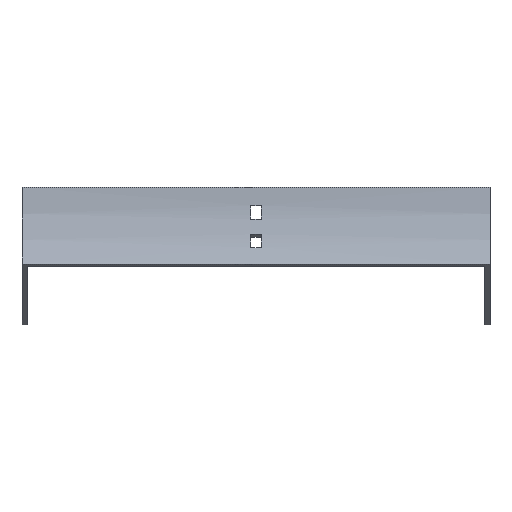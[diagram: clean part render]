
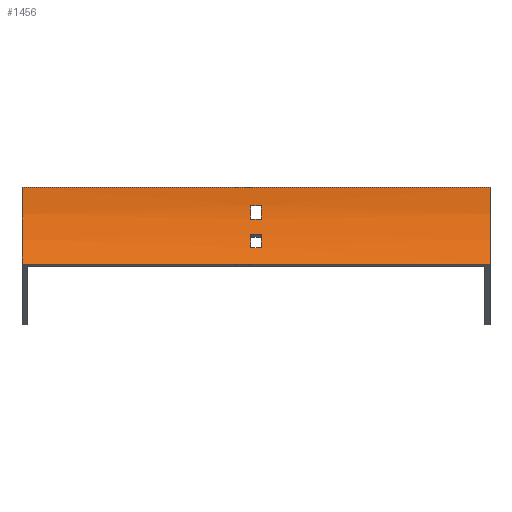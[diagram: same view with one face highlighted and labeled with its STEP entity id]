
A CAD part, front view. The second image highlights one B-rep face of the part: STEP entity #1456.
In plain terms, the highlighted cylindrical face has radius 100 mm (diameter 200 mm), a partial arc.
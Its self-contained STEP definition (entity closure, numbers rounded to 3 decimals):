
#23 = CARTESIAN_POINT ( 'NONE',  ( -152., 0., 0. ) ) ;
#59 = CARTESIAN_POINT ( 'NONE',  ( 3.25, -0.723, -12. ) ) ;
#76 = CARTESIAN_POINT ( 'NONE',  ( 152., -13.397, -50. ) ) ;
#84 = DIRECTION ( 'NONE',  ( 0., 0., 1. ) ) ;
#91 = DIRECTION ( 'NONE',  ( -1., 0., 0. ) ) ;
#105 = DIRECTION ( 'NONE',  ( 0., 0., 1. ) ) ;
#115 = CARTESIAN_POINT ( 'NONE',  ( 3.25, -4.829, -30.699 ) ) ;
#140 = DIRECTION ( 'NONE',  ( 0., 0., 1. ) ) ;
#153 = CARTESIAN_POINT ( 'NONE',  ( -3.25, -0.723, -12. ) ) ;
#176 = DIRECTION ( 'NONE',  ( -1., 0., 0. ) ) ;
#179 = ORIENTED_EDGE ( 'NONE', *, *, #1412, .T. ) ;
#202 = CARTESIAN_POINT ( 'NONE',  ( 152., -2.23, -21. ) ) ;
#207 = CARTESIAN_POINT ( 'NONE',  ( -3.25, -100., 0. ) ) ;
#209 = LINE ( 'NONE', #606, #953 ) ;
#214 = DIRECTION ( 'NONE',  ( 0., 0., -1. ) ) ;
#219 = EDGE_CURVE ( 'NONE', #969, #424, #1442, .T. ) ;
#244 = CARTESIAN_POINT ( 'NONE',  ( 152., -100., 0. ) ) ;
#256 = DIRECTION ( 'NONE',  ( -1., 0., 0. ) ) ;
#266 = VECTOR ( 'NONE', #1203, 1000. ) ;
#280 = DIRECTION ( 'NONE',  ( 0., 0., -1. ) ) ;
#282 = CARTESIAN_POINT ( 'NONE',  ( 152., -13.397, -50. ) ) ;
#324 = CARTESIAN_POINT ( 'NONE',  ( 152., -100., 0. ) ) ;
#335 = ORIENTED_EDGE ( 'NONE', *, *, #980, .F. ) ;
#347 = ORIENTED_EDGE ( 'NONE', *, *, #723, .F. ) ;
#364 = FACE_BOUND ( 'NONE', #610, .T. ) ;
#374 = CARTESIAN_POINT ( 'NONE',  ( -3.25, -4.829, -30.699 ) ) ;
#381 = DIRECTION ( 'NONE',  ( 1., 0., 0. ) ) ;
#409 = EDGE_LOOP ( 'NONE', ( #1364, #827, #490, #179 ) ) ;
#421 = DIRECTION ( 'NONE',  ( -1., 0., 0. ) ) ;
#424 = VERTEX_POINT ( 'NONE', #857 ) ;
#473 = DIRECTION ( 'NONE',  ( 1., 0., 0. ) ) ;
#486 = EDGE_CURVE ( 'NONE', #556, #785, #677, .T. ) ;
#490 = ORIENTED_EDGE ( 'NONE', *, *, #1670, .F. ) ;
#507 = EDGE_LOOP ( 'NONE', ( #1100, #1191, #335, #347 ) ) ;
#515 = CARTESIAN_POINT ( 'NONE',  ( 152., -0.723, -12. ) ) ;
#517 = VECTOR ( 'NONE', #612, 1000. ) ;
#527 = CARTESIAN_POINT ( 'NONE',  ( -3.25, -100., 0. ) ) ;
#533 = DIRECTION ( 'NONE',  ( -1., 0., 0. ) ) ;
#543 = AXIS2_PLACEMENT_3D ( 'NONE', #324, #421, #1081 ) ;
#556 = VERTEX_POINT ( 'NONE', #153 ) ;
#595 = CARTESIAN_POINT ( 'NONE',  ( 3.25, -2.23, -21. ) ) ;
#605 = CIRCLE ( 'NONE', #1010, 100. ) ;
#606 = CARTESIAN_POINT ( 'NONE',  ( 152., -8.023, -39.246 ) ) ;
#610 = EDGE_LOOP ( 'NONE', ( #1581, #885, #1133, #1091 ) ) ;
#612 = DIRECTION ( 'NONE',  ( -1., 0., 0. ) ) ;
#624 = EDGE_CURVE ( 'NONE', #1664, #1164, #684, .T. ) ;
#627 = VECTOR ( 'NONE', #176, 1000. ) ;
#648 = AXIS2_PLACEMENT_3D ( 'NONE', #1535, #879, #84 ) ;
#649 = AXIS2_PLACEMENT_3D ( 'NONE', #527, #381, #140 ) ;
#677 = LINE ( 'NONE', #515, #979 ) ;
#678 = CIRCLE ( 'NONE', #649, 100. ) ;
#684 = LINE ( 'NONE', #202, #266 ) ;
#694 = EDGE_CURVE ( 'NONE', #1175, #424, #605, .T. ) ;
#707 = AXIS2_PLACEMENT_3D ( 'NONE', #244, #91, #105 ) ;
#723 = EDGE_CURVE ( 'NONE', #1476, #1249, #209, .T. ) ;
#743 = DIRECTION ( 'NONE',  ( 0., 0., 1. ) ) ;
#785 = VERTEX_POINT ( 'NONE', #59 ) ;
#806 = CIRCLE ( 'NONE', #1026, 100. ) ;
#827 = ORIENTED_EDGE ( 'NONE', *, *, #219, .F. ) ;
#848 = VERTEX_POINT ( 'NONE', #1066 ) ;
#857 = CARTESIAN_POINT ( 'NONE',  ( -152., -13.397, -50. ) ) ;
#879 = DIRECTION ( 'NONE',  ( 1., 0., 0. ) ) ;
#885 = ORIENTED_EDGE ( 'NONE', *, *, #1214, .T. ) ;
#888 = CARTESIAN_POINT ( 'NONE',  ( 152., 0., 0. ) ) ;
#896 = FACE_BOUND ( 'NONE', #507, .T. ) ;
#909 = CARTESIAN_POINT ( 'NONE',  ( 3.25, -100., 0. ) ) ;
#953 = VECTOR ( 'NONE', #473, 1000. ) ;
#969 = VERTEX_POINT ( 'NONE', #76 ) ;
#979 = VECTOR ( 'NONE', #1310, 1000. ) ;
#980 = EDGE_CURVE ( 'NONE', #1249, #1445, #1267, .T. ) ;
#1010 = AXIS2_PLACEMENT_3D ( 'NONE', #1394, #1116, #743 ) ;
#1026 = AXIS2_PLACEMENT_3D ( 'NONE', #207, #1514, #214 ) ;
#1065 = CARTESIAN_POINT ( 'NONE',  ( 152., -4.829, -30.699 ) ) ;
#1066 = CARTESIAN_POINT ( 'NONE',  ( 152., 0., 0. ) ) ;
#1081 = DIRECTION ( 'NONE',  ( 0., 0., 1. ) ) ;
#1091 = ORIENTED_EDGE ( 'NONE', *, *, #1120, .T. ) ;
#1100 = ORIENTED_EDGE ( 'NONE', *, *, #1368, .F. ) ;
#1116 = DIRECTION ( 'NONE',  ( -1., 0., 0. ) ) ;
#1120 = EDGE_CURVE ( 'NONE', #785, #1664, #1380, .T. ) ;
#1133 = ORIENTED_EDGE ( 'NONE', *, *, #486, .T. ) ;
#1159 = CIRCLE ( 'NONE', #543, 100. ) ;
#1164 = VERTEX_POINT ( 'NONE', #1593 ) ;
#1172 = VECTOR ( 'NONE', #256, 1000. ) ;
#1175 = VERTEX_POINT ( 'NONE', #23 ) ;
#1191 = ORIENTED_EDGE ( 'NONE', *, *, #1483, .F. ) ;
#1196 = LINE ( 'NONE', #1065, #627 ) ;
#1203 = DIRECTION ( 'NONE',  ( -1., 0., 0. ) ) ;
#1214 = EDGE_CURVE ( 'NONE', #1164, #556, #678, .T. ) ;
#1249 = VERTEX_POINT ( 'NONE', #1610 ) ;
#1267 = CIRCLE ( 'NONE', #648, 100. ) ;
#1310 = DIRECTION ( 'NONE',  ( 1., 0., 0. ) ) ;
#1364 = ORIENTED_EDGE ( 'NONE', *, *, #694, .T. ) ;
#1368 = EDGE_CURVE ( 'NONE', #1518, #1476, #806, .T. ) ;
#1380 = CIRCLE ( 'NONE', #1502, 100. ) ;
#1394 = CARTESIAN_POINT ( 'NONE',  ( -152., -100., 0. ) ) ;
#1412 = EDGE_CURVE ( 'NONE', #848, #1175, #1653, .T. ) ;
#1420 = CYLINDRICAL_SURFACE ( 'NONE', #707, 100. ) ;
#1442 = LINE ( 'NONE', #282, #1172 ) ;
#1445 = VERTEX_POINT ( 'NONE', #115 ) ;
#1451 = CARTESIAN_POINT ( 'NONE',  ( -3.25, -8.023, -39.246 ) ) ;
#1456 = ADVANCED_FACE ( 'NONE', ( #1555, #364, #896 ), #1420, .F. ) ;
#1476 = VERTEX_POINT ( 'NONE', #1451 ) ;
#1483 = EDGE_CURVE ( 'NONE', #1445, #1518, #1196, .T. ) ;
#1502 = AXIS2_PLACEMENT_3D ( 'NONE', #909, #533, #280 ) ;
#1514 = DIRECTION ( 'NONE',  ( -1., 0., 0. ) ) ;
#1518 = VERTEX_POINT ( 'NONE', #374 ) ;
#1535 = CARTESIAN_POINT ( 'NONE',  ( 3.25, -100., 0. ) ) ;
#1555 = FACE_OUTER_BOUND ( 'NONE', #409, .T. ) ;
#1581 = ORIENTED_EDGE ( 'NONE', *, *, #624, .T. ) ;
#1593 = CARTESIAN_POINT ( 'NONE',  ( -3.25, -2.23, -21. ) ) ;
#1610 = CARTESIAN_POINT ( 'NONE',  ( 3.25, -8.023, -39.246 ) ) ;
#1653 = LINE ( 'NONE', #888, #517 ) ;
#1664 = VERTEX_POINT ( 'NONE', #595 ) ;
#1670 = EDGE_CURVE ( 'NONE', #848, #969, #1159, .T. ) ;
